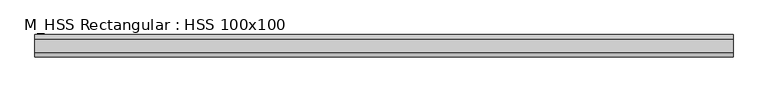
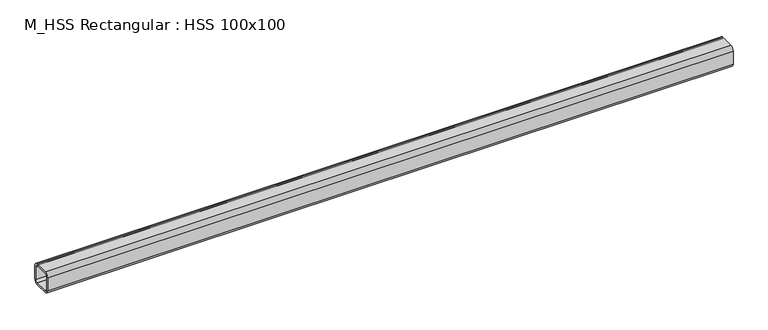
"""IFC4 building model written with IfcOpenShell, lengths in millimetres: beam geometry, M_HSS Rectangular : HSS 100x100."""

from ifc_helpers import new_model, si_unit, point, frame, frame_2d, origin, place, context, project, spatial, polyline, circle_curve, trimmed, segment, composite_curve, outline, extrude, source, transform, mapped, element, save


def m_hss_rectangular_hss_100x100_bf6b89f8(model_context):
    return source(origin(), model_context, "Body", "SweptSolid", [
        extrude(outline(composite_curve([segment(polyline([(50.0, 30.94), (50.0, -30.94)]), True, "CONTINUOUS"), segment(trimmed(circle_curve(frame_2d((30.94, -30.94)), 19.06), [point((50.0, -30.94))], [point((30.94, -50.0))], False, "CARTESIAN"), True, "CONTINUOUS"), segment(polyline([(30.94, -50.0), (-30.94, -50.0)]), True, "CONTINUOUS"), segment(trimmed(circle_curve(frame_2d((-30.94, -30.94)), 19.06), [point((-30.94, -50.0))], [point((-50.0, -30.94))], False, "CARTESIAN"), True, "CONTINUOUS"), segment(polyline([(-50.0, -30.94), (-50.0, 30.94)]), True, "CONTINUOUS"), segment(trimmed(circle_curve(frame_2d((-30.94, 30.94)), 19.06), [point((-50.0, 30.94))], [point((-30.94, 50.0))], False, "CARTESIAN"), True, "CONTINUOUS"), segment(polyline([(-30.94, 50.0), (30.94, 50.0)]), True, "CONTINUOUS"), segment(trimmed(circle_curve(frame_2d((30.94, 30.94)), 19.06), [point((30.94, 50.0))], [point((50.0, 30.94))], False, "CARTESIAN"), True, "CONTINUOUS")], self_intersect=False), holes=[composite_curve([segment(trimmed(circle_curve(frame_2d((-30.94, 30.94)), 9.53), [point((-30.94, 40.47))], [point((-40.47, 30.94))], True, "CARTESIAN"), True, "CONTINUOUS"), segment(polyline([(-40.47, 30.94), (-40.47, -30.94)]), True, "CONTINUOUS"), segment(trimmed(circle_curve(frame_2d((-30.94, -30.94)), 9.53), [point((-40.47, -30.94))], [point((-30.94, -40.47))], True, "CARTESIAN"), True, "CONTINUOUS"), segment(polyline([(-30.94, -40.47), (30.94, -40.47)]), True, "CONTINUOUS"), segment(trimmed(circle_curve(frame_2d((30.94, -30.94)), 9.53), [point((30.94, -40.47))], [point((40.47, -30.94))], True, "CARTESIAN"), True, "CONTINUOUS"), segment(polyline([(40.47, -30.94), (40.47, 30.94)]), True, "CONTINUOUS"), segment(trimmed(circle_curve(frame_2d((30.94, 30.94)), 9.53), [point((40.47, 30.94))], [point((30.94, 40.47))], True, "CARTESIAN"), True, "CONTINUOUS"), segment(polyline([(30.94, 40.47), (-30.94, 40.47)]), True, "CONTINUOUS")], self_intersect=False)]), frame((-1567.1, 0.0, 0.0), z_axis=(1.0, 0.0, 0.0), x_axis=(0.0, 1.0, 0.0)), (0.0, 0.0, 1.0), 3134.2),
    ])


if __name__ == "__main__":
    model = new_model("IFC4")
    model_context = context("Model", 3, world=origin())
    ifc_project = project(units=[si_unit("LENGTHUNIT", "METRE", prefix="MILLI")], contexts=[model_context])
    site = spatial("IfcSite", under=ifc_project)
    building = spatial("IfcBuilding", under=site)
    placement = place(None, origin())
    m_hss_rectangular_hss_100x100_shape = m_hss_rectangular_hss_100x100_bf6b89f8(model_context)
    element("IfcBeam", 1, ObjectType="M_HSS Rectangular : HSS 100x100", at=placement, inside=building, context=model_context, shape_type="MappedRepresentation", body=[
        mapped(m_hss_rectangular_hss_100x100_shape, transform((0.0, 0.0, 0.0), x_axis=(1.0, 0.0, 0.0), y_axis=(0.0, 1.0, 0.0), z_axis=(0.0, 0.0, 1.0))),
    ])
    save(model, "model.ifc")
